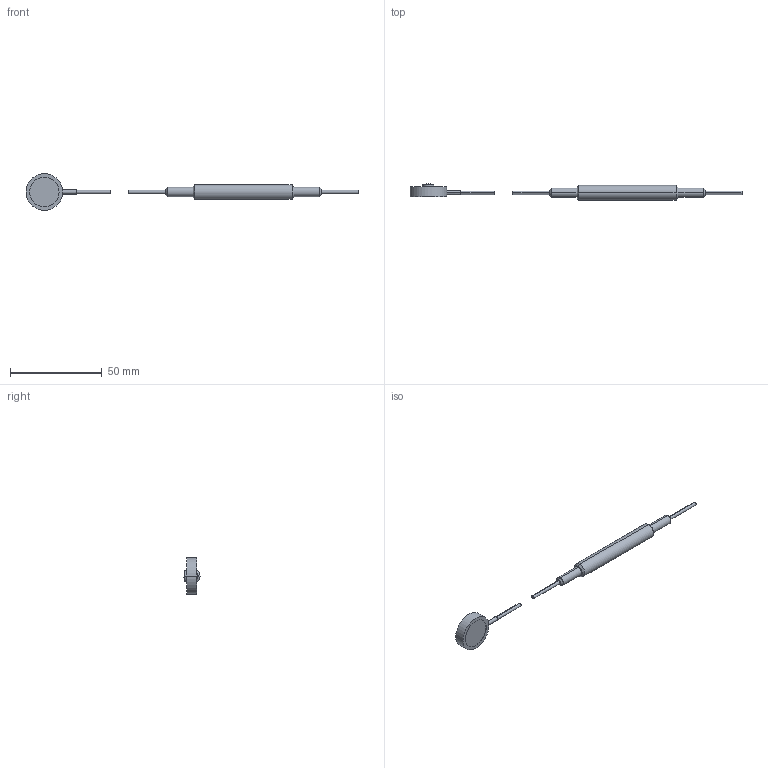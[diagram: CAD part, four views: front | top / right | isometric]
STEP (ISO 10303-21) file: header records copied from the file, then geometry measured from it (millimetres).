
FILE_DESCRIPTION(('STEP AP203'),'1');
FILE_NAME('C:/TPO v2/SharedFS/Outgoing/burster_8415-5200-v010_bqd1hzae6iotyfesdr9ncwcep.stp','2013-08-27T15:26:42',('TraceParts'),('TraceParts S.A.'),'XStep 1.0',' ',' ');
FILE_SCHEMA(('CONFIG_CONTROL_DESIGN'));
Length unit declared in the file: millimetre
Products named in the file (2): 1; 2
Bounding box: 181.1 x 8.85 x 20 mm (x, y, z)
Volume: 5115 mm3; surface area: 3364.9 mm2
Topology: 2 solids, 2 shells, 47 faces, 100 edges, 65 vertices
Faces by surface type: cylinder 22, plane 12, cone 8, torus 4, sphere 1
Entity records: 1417 total; most frequent: DIRECTION 257, CARTESIAN_POINT 255, ORIENTED_EDGE 200, AXIS2_PLACEMENT_3D 113, EDGE_CURVE 100, VERTEX_POINT 65, CIRCLE 64, EDGE_LOOP 55
